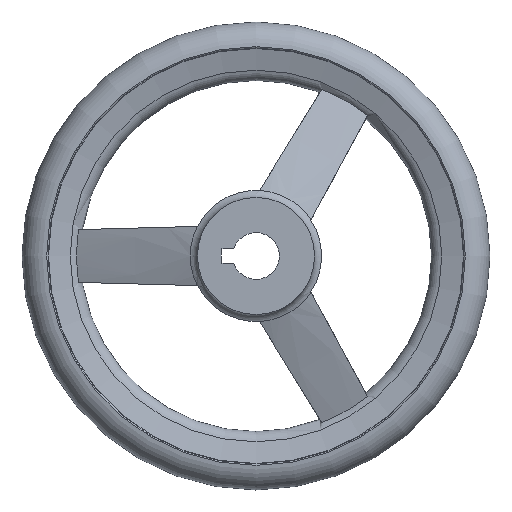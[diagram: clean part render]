
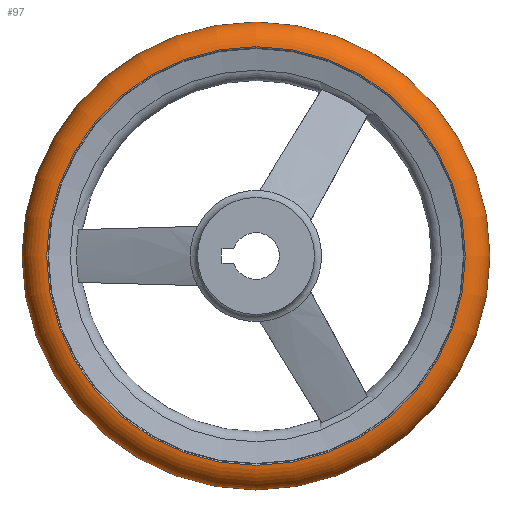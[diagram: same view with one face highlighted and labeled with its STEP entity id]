
A CAD part, left-side view. The second image highlights one B-rep face of the part: STEP entity #97.
In plain terms, the highlighted toroidal (fillet/blend) face has major radius 89 mm and minor radius 11 mm.
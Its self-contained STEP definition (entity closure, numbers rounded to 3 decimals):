
#97 = ADVANCED_FACE( '', ( #167, #168, #169 ), #170, .T. );
#167 = FACE_BOUND( '', #264, .T. );
#168 = FACE_OUTER_BOUND( '', #265, .T. );
#169 = FACE_OUTER_BOUND( '', #266, .T. );
#170 = TOROIDAL_SURFACE( '', #267, 89., 11. );
#264 = VERTEX_LOOP( '', #506 );
#265 = EDGE_LOOP( '', ( #507 ) );
#266 = EDGE_LOOP( '', ( #508 ) );
#267 = AXIS2_PLACEMENT_3D( '', #509, #510, #511 );
#506 = VERTEX_POINT( '', #671 );
#507 = ORIENTED_EDGE( '', *, *, #672, .T. );
#508 = ORIENTED_EDGE( '', *, *, #673, .F. );
#509 = CARTESIAN_POINT( '', ( 48., 0., 0. ) );
#510 = DIRECTION( '', ( 1., 0., 0. ) );
#511 = DIRECTION( '', ( 0., 1., 0. ) );
#671 = CARTESIAN_POINT( '', ( 48., 100., 0. ) );
#672 = EDGE_CURVE( '', #813, #813, #814, .T. );
#673 = EDGE_CURVE( '', #815, #815, #816, .T. );
#813 = VERTEX_POINT( '', #1253 );
#814 = CIRCLE( '', #1254, 89.458 );
#815 = VERTEX_POINT( '', #1255 );
#816 = CIRCLE( '', #1256, 89.458 );
#1253 = CARTESIAN_POINT( '', ( 37.01, 89.458, 0. ) );
#1254 = AXIS2_PLACEMENT_3D( '', #1383, #1384, #1385 );
#1255 = CARTESIAN_POINT( '', ( 58.99, 89.458, 0. ) );
#1256 = AXIS2_PLACEMENT_3D( '', #1386, #1387, #1388 );
#1383 = CARTESIAN_POINT( '', ( 37.01, 0., 0. ) );
#1384 = DIRECTION( '', ( 1., 0., 0. ) );
#1385 = DIRECTION( '', ( 0., 1., 0. ) );
#1386 = CARTESIAN_POINT( '', ( 58.99, 0., 0. ) );
#1387 = DIRECTION( '', ( 1., 0., 0. ) );
#1388 = DIRECTION( '', ( 0., 1., 0. ) );
